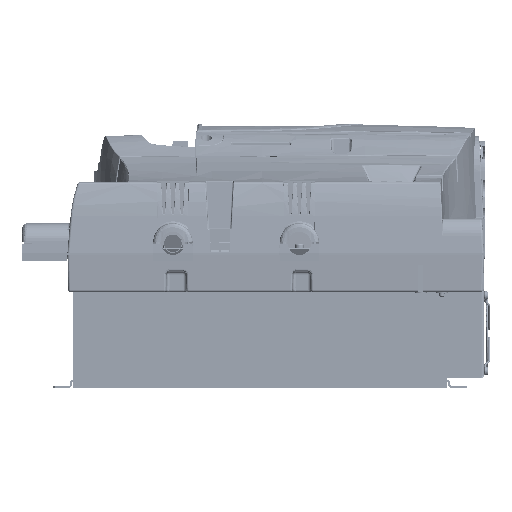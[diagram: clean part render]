
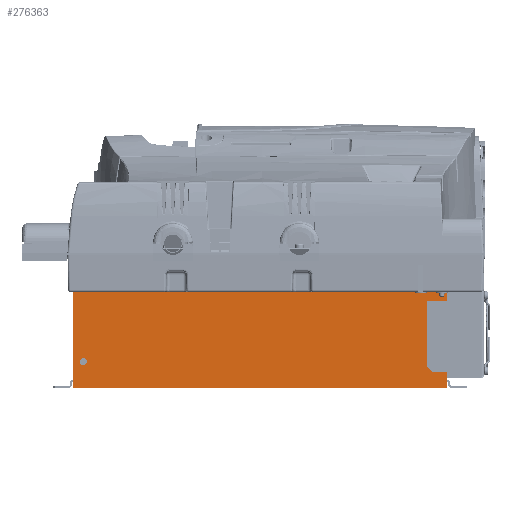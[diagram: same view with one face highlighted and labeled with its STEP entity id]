
A CAD part, left-side view. The second image highlights one B-rep face of the part: STEP entity #276363.
In plain terms, the highlighted planar face has unit normal (-1, 0, 0).
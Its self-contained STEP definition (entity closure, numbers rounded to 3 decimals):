
#292=DIRECTION('',(0.,1.,0.));
#293=VECTOR('',#292,353.422);
#294=CARTESIAN_POINT('',(-98.5,-161.122,0.));
#295=LINE('',#294,#293);
#1039=DIRECTION('',(0.,0.,1.));
#1040=VECTOR('',#1039,8.97);
#1041=CARTESIAN_POINT('',(-98.5,-162.7,-90.5));
#1042=LINE('',#1041,#1040);
#1764=DIRECTION('',(0.,0.,1.));
#1765=VECTOR('',#1764,80.33);
#1766=CARTESIAN_POINT('',(-98.5,-162.7,-80.33));
#1767=LINE('',#1766,#1765);
#1888=DIRECTION('',(0.,-1.,0.));
#1889=VECTOR('',#1888,1.578);
#1890=CARTESIAN_POINT('',(-98.5,-161.122,0.));
#1891=LINE('',#1890,#1889);
#89651=DIRECTION('',(0.,-1.,0.));
#89652=VECTOR('',#89651,355.);
#89653=CARTESIAN_POINT('',(-98.5,192.3,-90.5));
#89654=LINE('',#89653,#89652);
#89655=DIRECTION('',(0.,0.,1.));
#89656=VECTOR('',#89655,90.5);
#89657=CARTESIAN_POINT('',(-98.5,192.3,-90.5));
#89658=LINE('',#89657,#89656);
#89659=DIRECTION('',(0.,0.,-1.));
#89660=VECTOR('',#89659,1.2);
#89661=CARTESIAN_POINT('',(-98.5,-162.7,-80.33));
#89662=LINE('',#89661,#89660);
#89663=CARTESIAN_POINT('',(-98.5,182.3,-66.));
#89664=DIRECTION('',(1.,0.,0.));
#89665=DIRECTION('',(0.,-1.,0.));
#89666=AXIS2_PLACEMENT_3D('',#89663,#89664,#89665);
#89668=CARTESIAN_POINT('',(-98.5,182.3,-66.));
#89669=DIRECTION('',(1.,0.,0.));
#89670=DIRECTION('',(0.,1.,0.));
#89671=AXIS2_PLACEMENT_3D('',#89668,#89669,#89670);
#89673=CARTESIAN_POINT('',(-98.5,-154.7,-25.2));
#89674=DIRECTION('',(-1.,0.,0.));
#89675=DIRECTION('',(0.,-1.,0.));
#89676=AXIS2_PLACEMENT_3D('',#89673,#89674,#89675);
#89678=CARTESIAN_POINT('',(-98.5,-154.7,-25.2));
#89679=DIRECTION('',(-1.,0.,0.));
#89680=DIRECTION('',(0.,1.,0.));
#89681=AXIS2_PLACEMENT_3D('',#89678,#89679,#89680);
#89683=CARTESIAN_POINT('',(-98.5,-154.7,-49.2));
#89684=DIRECTION('',(-1.,0.,0.));
#89685=DIRECTION('',(0.,-1.,0.));
#89686=AXIS2_PLACEMENT_3D('',#89683,#89684,#89685);
#89688=CARTESIAN_POINT('',(-98.5,-154.7,-49.2));
#89689=DIRECTION('',(-1.,0.,0.));
#89690=DIRECTION('',(0.,1.,0.));
#89691=AXIS2_PLACEMENT_3D('',#89688,#89689,#89690);
#128990=CARTESIAN_POINT('',(-98.5,179.05,-66.));
#128991=CARTESIAN_POINT('',(-98.5,185.55,-66.));
#128992=VERTEX_POINT('',#128990);
#128993=VERTEX_POINT('',#128991);
#129050=CARTESIAN_POINT('',(-98.5,-157.,-25.2));
#129051=CARTESIAN_POINT('',(-98.5,-152.4,-25.2));
#129052=VERTEX_POINT('',#129050);
#129053=VERTEX_POINT('',#129051);
#129066=CARTESIAN_POINT('',(-98.5,-157.,-49.2));
#129067=CARTESIAN_POINT('',(-98.5,-152.4,-49.2));
#129068=VERTEX_POINT('',#129066);
#129069=VERTEX_POINT('',#129067);
#129401=CARTESIAN_POINT('',(-98.5,-162.7,-90.5));
#129403=VERTEX_POINT('',#129401);
#129407=CARTESIAN_POINT('',(-98.5,192.3,-90.5));
#129408=VERTEX_POINT('',#129407);
#129527=CARTESIAN_POINT('',(-98.5,-162.7,0.));
#129529=VERTEX_POINT('',#129527);
#129543=CARTESIAN_POINT('',(-98.5,192.3,0.));
#129545=VERTEX_POINT('',#129543);
#129552=CARTESIAN_POINT('',(-98.5,-161.122,0.));
#129553=VERTEX_POINT('',#129552);
#129966=CARTESIAN_POINT('',(-98.5,-162.7,-81.53));
#129968=VERTEX_POINT('',#129966);
#130034=CARTESIAN_POINT('',(-98.5,-162.7,-80.33));
#130036=VERTEX_POINT('',#130034);
#276330=CARTESIAN_POINT('',(-98.5,-162.7,-91.));
#276331=DIRECTION('',(-1.,0.,0.));
#276332=DIRECTION('',(0.,0.,1.));
#276333=AXIS2_PLACEMENT_3D('',#276330,#276331,#276332);
#276334=PLANE('',#276333);
#276335=ORIENTED_EDGE('',*,*,#140616,.F.);
#276337=ORIENTED_EDGE('',*,*,#276336,.F.);
#276338=ORIENTED_EDGE('',*,*,#140055,.T.);
#276339=ORIENTED_EDGE('',*,*,#139967,.F.);
#276340=ORIENTED_EDGE('',*,*,#141438,.T.);
#276341=ORIENTED_EDGE('',*,*,#141284,.F.);
#276342=ORIENTED_EDGE('',*,*,#276314,.T.);
#276343=EDGE_LOOP('',(#276335,#276337,#276338,#276339,#276340,#276341,#276342));
#276344=FACE_OUTER_BOUND('',#276343,.F.);
#276346=ORIENTED_EDGE('',*,*,#276345,.F.);
#276348=ORIENTED_EDGE('',*,*,#276347,.F.);
#276349=EDGE_LOOP('',(#276346,#276348));
#276350=FACE_BOUND('',#276349,.F.);
#276352=ORIENTED_EDGE('',*,*,#276351,.T.);
#276354=ORIENTED_EDGE('',*,*,#276353,.T.);
#276355=EDGE_LOOP('',(#276352,#276354));
#276356=FACE_BOUND('',#276355,.F.);
#276358=ORIENTED_EDGE('',*,*,#276357,.T.);
#276360=ORIENTED_EDGE('',*,*,#276359,.T.);
#276361=EDGE_LOOP('',(#276358,#276360));
#276362=FACE_BOUND('',#276361,.F.);
#89667=CIRCLE('',#89666,3.25);
#89672=CIRCLE('',#89671,3.25);
#89677=CIRCLE('',#89676,2.3);
#89682=CIRCLE('',#89681,2.3);
#89687=CIRCLE('',#89686,2.3);
#89692=CIRCLE('',#89691,2.3);
#139967=EDGE_CURVE('',#129553,#129545,#295,.T.);
#140055=EDGE_CURVE('',#129408,#129545,#89658,.T.);
#140616=EDGE_CURVE('',#129403,#129968,#1042,.T.);
#141284=EDGE_CURVE('',#130036,#129529,#1767,.T.);
#141438=EDGE_CURVE('',#129553,#129529,#1891,.T.);
#276314=EDGE_CURVE('',#130036,#129968,#89662,.T.);
#276336=EDGE_CURVE('',#129408,#129403,#89654,.T.);
#276345=EDGE_CURVE('',#128992,#128993,#89667,.T.);
#276347=EDGE_CURVE('',#128993,#128992,#89672,.T.);
#276351=EDGE_CURVE('',#129052,#129053,#89677,.T.);
#276353=EDGE_CURVE('',#129053,#129052,#89682,.T.);
#276357=EDGE_CURVE('',#129068,#129069,#89687,.T.);
#276359=EDGE_CURVE('',#129069,#129068,#89692,.T.);
#276363=ADVANCED_FACE('',(#276344,#276350,#276356,#276362),#276334,.T.);
